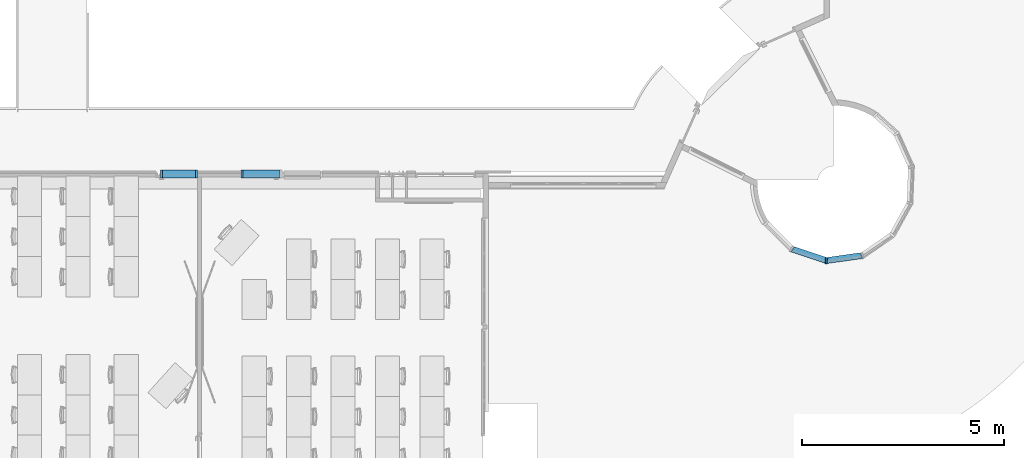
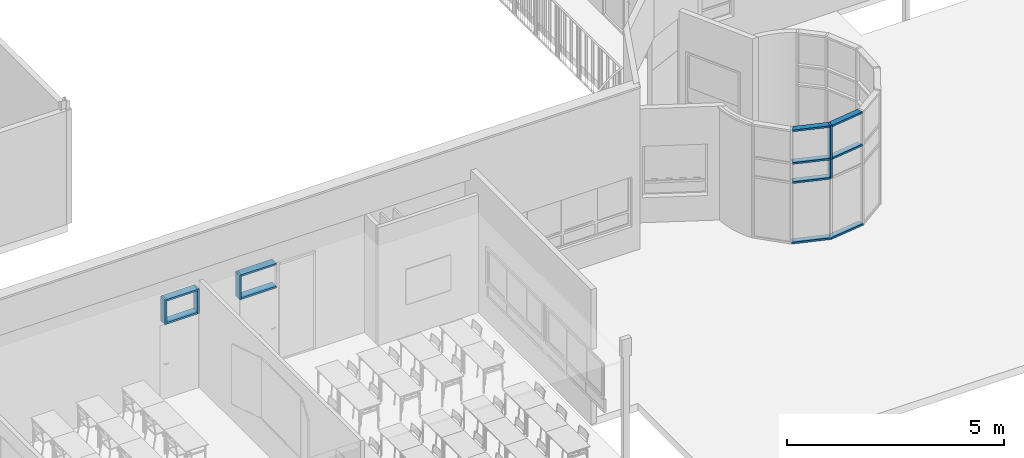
# One storey, part 12 of 44: 23 members, 5 elements without a shape of their own.
"""IFC2X3 building model written with IfcOpenShell, lengths in centimetres."""

from ifc_helpers import new_model, entity, si_unit, converted_unit, derived_unit, direction, frame, frame_2d, origin, origin_2d_with_axis, place, context, subcontext, project, spatial, polyline, rectangle, extrude, clip, halfspace, bounded_halfspace, material, type_object, element, aggregate, save


model = new_model("IFC2X3")

# Units and contexts
model_context = context("Model", 3, precision=0.001, world=origin(), true_north=direction((6.12303176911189e-17, 1.0)))
body_context = subcontext(model_context, "Body", "Model", "MODEL_VIEW")
ifc_project = project(units=[si_unit("LENGTHUNIT", "METRE", prefix="CENTI"), si_unit("AREAUNIT", "SQUARE_METRE"), si_unit("VOLUMEUNIT", "CUBIC_METRE"), converted_unit("PLANEANGLEUNIT", "DEGREE", entity("IfcRatioMeasure", 0.0174532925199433), si_unit("PLANEANGLEUNIT", "RADIAN"), dimensions=[0, 0, 0, 0, 0, 0, 0]), si_unit("MASSUNIT", "GRAM", prefix="KILO"), si_unit("TIMEUNIT", "SECOND"), si_unit("FREQUENCYUNIT", "HERTZ"), si_unit("THERMODYNAMICTEMPERATUREUNIT", "DEGREE_CELSIUS"), derived_unit("THERMALTRANSMITTANCEUNIT", [(si_unit("MASSUNIT", "GRAM", prefix="KILO"), 1), (si_unit("THERMODYNAMICTEMPERATUREUNIT", "KELVIN"), -1), (si_unit("TIMEUNIT", "SECOND"), -3)]), derived_unit("VOLUMETRICFLOWRATEUNIT", [(si_unit("LENGTHUNIT", "METRE"), 3), (si_unit("TIMEUNIT", "SECOND"), -1)]), si_unit("ELECTRICCURRENTUNIT", "AMPERE"), si_unit("ELECTRICVOLTAGEUNIT", "VOLT"), si_unit("POWERUNIT", "WATT"), si_unit("FORCEUNIT", "NEWTON", prefix="KILO"), si_unit("ILLUMINANCEUNIT", "LUX"), si_unit("LUMINOUSFLUXUNIT", "LUMEN"), si_unit("LUMINOUSINTENSITYUNIT", "CANDELA"), derived_unit("USERDEFINED", [(si_unit("MASSUNIT", "GRAM", prefix="KILO"), -1), (si_unit("LENGTHUNIT", "METRE"), -2), (si_unit("TIMEUNIT", "SECOND"), 3), (si_unit("LUMINOUSFLUXUNIT", "LUMEN"), 1)]), derived_unit("LINEARVELOCITYUNIT", [(si_unit("LENGTHUNIT", "METRE"), 1), (si_unit("TIMEUNIT", "SECOND"), -1)]), si_unit("PRESSUREUNIT", "PASCAL"), derived_unit("USERDEFINED", [(si_unit("LENGTHUNIT", "METRE"), -2), (si_unit("MASSUNIT", "GRAM", prefix="KILO"), 1), (si_unit("TIMEUNIT", "SECOND"), -2)])], contexts=[model_context])

# Site, building, storey
site_placement = place(None, frame((8.62739174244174, -249.285249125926, 0.0)))
site = spatial("IfcSite", under=ifc_project, at=site_placement, Name="Default", CompositionType="ELEMENT")
building_placement = place(site_placement, origin())
building = spatial("IfcBuilding", under=site, at=building_placement, CompositionType="ELEMENT")
storey_placement = place(building_placement, frame((0.0, 0.0, 343.0)))
storey = spatial("IfcBuildingStorey", under=building, at=storey_placement, Name="R+1", CompositionType="ELEMENT", Elevation=343.0)

# Curtain wall, members
curtain_wall_type_1 = type_object("IfcCurtainWallType", Name="Mur-rideau:1 m x 1 m - Meneaux", PredefinedType="NOTDEFINED")
curtain_wall_1_placement = place(storey_placement, frame((0.0, 0.0, -343.0)))
curtain_wall_1 = element("IfcCurtainWall", 1, at=curtain_wall_1_placement, inside=storey, type_object=curtain_wall_type_1, Name="Mur-rideau:1 m x 1 m - Meneaux", ObjectType="Mur-rideau:1 m x 1 m - Meneaux")
ifc_material = material(Name="Plastique, blanc opaque")
member_1_placement = place(curtain_wall_1_placement, frame((0.0, 0.0, 343.0)))
member_1 = element("IfcMember", 2, at=member_1_placement, material=ifc_material, Name="Mur-rideau:1 m x 1 m - Meneaux:661", ObjectType="Mur-rideau:1 m x 1 m - Meneaux:661", context=body_context, shape_type="Clipping", body=[
    clip(clip(clip(clip(extrude(rectangle(XDim=4.99999999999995, YDim=15.0, at=frame_2d((0.0, 2.22932783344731e-13), x_axis=(1.0, 0.0))), frame((3024.97569416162, 558.695944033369, 317.5), z_axis=(-0.948048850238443, 0.318124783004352, 0.0), x_axis=(0.0, 0.0, -1.0)), (0.0, 0.0, 1.0), 88.4011679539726), bounded_halfspace(frame((3022.55445511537, 551.203317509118, 226.0), z_axis=(0.995762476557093, -0.0919624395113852, 0.0), x_axis=(0.0919624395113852, 0.995762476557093, 0.0)), False, frame((3024.97569416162, 558.695944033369, 317.5), z_axis=(-0.948048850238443, 0.318124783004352, 0.0), x_axis=(0.0, 0.0, -1.0)), polyline([(-2.49999999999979, 7.50000000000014), (2.50000000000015, 7.50000000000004), (2.49999999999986, -6.72567292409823), (-2.50000000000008, -6.72567292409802), (-2.49999999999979, 7.50000000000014)]))), bounded_halfspace(frame((3023.93389170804, 566.139754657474, 226.0), z_axis=(-0.0919624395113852, -0.995762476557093, 0.0), x_axis=(0.995762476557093, -0.0919624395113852, 0.0)), False, frame((3024.97569416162, 558.695944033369, 317.5), z_axis=(-0.948048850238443, 0.318124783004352, 0.0), x_axis=(0.0, 0.0, -1.0)), polyline([(2.49999999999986, -6.72567292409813), (2.49999999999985, -7.49999999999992), (-2.5000000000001, -7.49999999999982), (-2.50000000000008, -6.72567292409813), (2.49999999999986, -6.72567292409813)]))), bounded_halfspace(frame((2946.48807745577, 592.127268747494, 226.0), z_axis=(-0.849684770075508, 0.527290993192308, 0.0), x_axis=(0.527290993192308, 0.849684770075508, 0.0)), False, frame((3024.97569416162, 558.695944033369, 317.5), z_axis=(-0.948048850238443, 0.318124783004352, 0.0), x_axis=(0.0, 0.0, -1.0)), polyline([(-2.50000000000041, 7.50000000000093), (-2.50000000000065, -6.72567292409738), (2.49999999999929, -6.72567292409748), (2.49999999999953, 7.50000000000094), (-2.50000000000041, 7.50000000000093)]))), bounded_halfspace(frame((2942.23965360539, 594.763723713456, 226.0), z_axis=(-0.527290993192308, -0.849684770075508, 0.0), x_axis=(0.849684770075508, -0.527290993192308, 0.0)), False, frame((3024.97569416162, 558.695944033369, 317.5), z_axis=(-0.948048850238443, 0.318124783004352, 0.0), x_axis=(0.0, 0.0, -1.0)), polyline([(-2.50000000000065, -6.72567292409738), (-2.50000000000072, -7.49999999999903), (2.49999999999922, -7.49999999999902), (2.49999999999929, -6.72567292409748), (-2.50000000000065, -6.72567292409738)]))),
])
member_2_placement = place(curtain_wall_1_placement, frame((0.0, 0.0, 343.0)))
member_2 = element("IfcMember", 3, at=member_2_placement, material=ifc_material, Name="Mur-rideau:1 m x 1 m - Meneaux:661", ObjectType="Mur-rideau:1 m x 1 m - Meneaux:661", context=body_context, shape_type="Clipping", body=[
    clip(clip(clip(clip(extrude(rectangle(XDim=4.99999999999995, YDim=15.0000000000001, at=origin_2d_with_axis()), frame((3114.06682179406, 570.850598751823, 317.5), z_axis=(-0.990276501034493, -0.13911308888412, 0.0), x_axis=(0.0, 0.0, -1.0)), (0.0, 0.0, 1.0), 88.4011679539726), bounded_halfspace(frame((3115.24942736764, 563.065786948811, 226.0), z_axis=(0.931884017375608, 0.362756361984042, 0.0), x_axis=(0.362756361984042, -0.931884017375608, 0.0)), False, frame((3114.06682179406, 570.850598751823, 317.5), z_axis=(-0.990276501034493, -0.13911308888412, 0.0), x_axis=(0.0, 0.0, -1.0)), polyline([(-2.49999999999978, 7.50000000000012), (2.50000000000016, 7.50000000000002), (2.49999999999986, -6.72567292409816), (-2.50000000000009, -6.72567292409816), (-2.49999999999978, 7.50000000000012)]))), bounded_halfspace(frame((3109.80808193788, 577.044047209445, 226.0), z_axis=(0.362756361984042, -0.931884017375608, 0.0), x_axis=(0.931884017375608, 0.362756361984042, 0.0)), False, frame((3114.06682179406, 570.850598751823, 317.5), z_axis=(-0.990276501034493, -0.13911308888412, 0.0), x_axis=(0.0, 0.0, -1.0)), polyline([(2.49999999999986, -6.72567292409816), (2.49999999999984, -7.50000000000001), (-2.5000000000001, -7.4999999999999), (-2.50000000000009, -6.72567292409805), (2.49999999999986, -6.72567292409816)]))), bounded_halfspace(frame((3028.91270409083, 565.679942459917, 226.0), z_axis=(-0.995762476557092, 0.091962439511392, 0.0), x_axis=(0.091962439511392, 0.995762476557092, 0.0)), False, frame((3114.06682179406, 570.850598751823, 317.5), z_axis=(-0.990276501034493, -0.13911308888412, 0.0), x_axis=(0.0, 0.0, -1.0)), polyline([(-2.4999999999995, 7.49999999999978), (-2.4999999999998, -6.7256729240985), (2.50000000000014, -6.72567292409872), (2.50000000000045, 7.49999999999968), (-2.4999999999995, 7.49999999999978)]))), bounded_halfspace(frame((3023.93389170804, 566.139754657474, 226.0), z_axis=(-0.091962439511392, -0.995762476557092, 0.0), x_axis=(0.995762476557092, -0.091962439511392, 0.0)), False, frame((3114.06682179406, 570.850598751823, 317.5), z_axis=(-0.990276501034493, -0.13911308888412, 0.0), x_axis=(0.0, 0.0, -1.0)), polyline([(-2.4999999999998, -6.72567292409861), (-2.49999999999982, -7.50000000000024), (2.50000000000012, -7.50000000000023), (2.50000000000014, -6.72567292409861), (-2.4999999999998, -6.72567292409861)]))),
])
member_3_placement = place(curtain_wall_1_placement, frame((0.0, 0.0, 343.0)))
member_3 = element("IfcMember", 4, at=member_3_placement, material=ifc_material, Name="Mur-rideau:1 m x 1 m - Meneaux:661", ObjectType="Mur-rideau:1 m x 1 m - Meneaux:661", context=body_context, shape_type="Clipping", body=[
    clip(clip(extrude(rectangle(XDim=5.0, YDim=15.0000000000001, at=frame_2d((-2.70894418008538e-14, -8.34887714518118e-14), x_axis=(1.0, 0.0))), frame((3023.98158301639, 558.1955111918, 2.49999999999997), z_axis=(0.990276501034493, 0.139113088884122, 0.0), x_axis=(0.0, 0.0, -1.0)), (0.0, 0.0, 1.0), 93.5383987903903), halfspace(frame((3025.7335796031, 558.441629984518, -30.48), z_axis=(-0.995762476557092, 0.0919624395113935, 0.0), x_axis=(0.0919624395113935, 0.995762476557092, 0.0)), False)), halfspace(frame((3114.8584646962, 570.961807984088, -30.48), z_axis=(0.93188401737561, 0.362756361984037, 0.0), x_axis=(0.362756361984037, -0.93188401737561, 0.0)), False)),
])
member_4_placement = place(curtain_wall_1_placement, frame((0.0, 0.0, 343.0)))
member_4 = element("IfcMember", 5, at=member_4_placement, material=ifc_material, Name="Mur-rideau:1 m x 1 m - Meneaux:661", ObjectType="Mur-rideau:1 m x 1 m - Meneaux:661", context=body_context, shape_type="Clipping", body=[
    clip(clip(extrude(rectangle(XDim=5.0, YDim=15.0000000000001, at=frame_2d((-2.70894418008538e-14, 2.74003042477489e-13), x_axis=(1.0, 0.0))), frame((2938.70726531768, 587.643951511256, 2.49999999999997), z_axis=(0.948048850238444, -0.31812478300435, 0.0), x_axis=(0.0, 0.0, -1.0)), (0.0, 0.0, 1.0), 93.5643787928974), halfspace(frame((2940.40918308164, 587.072860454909, -30.48), z_axis=(-0.847951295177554, 0.53007414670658, 0.0), x_axis=(0.53007414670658, 0.847951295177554, 0.0)), False)), halfspace(frame((3025.7335796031, 558.441629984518, -30.48), z_axis=(0.995762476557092, -0.0919624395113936, 0.0), x_axis=(0.0919624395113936, 0.995762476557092, 0.0)), False)),
])
member_5_placement = place(curtain_wall_1_placement, frame((0.0, 0.0, 343.0)))
member_5 = element("IfcMember", 6, at=member_5_placement, material=ifc_material, Name="Mur-rideau:1 m x 1 m - Meneaux:661", ObjectType="Mur-rideau:1 m x 1 m - Meneaux:661", context=body_context, shape_type="Clipping", body=[
    clip(clip(clip(clip(clip(clip(clip(clip(extrude(rectangle(XDim=4.99999999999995, YDim=15.0000000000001, at=frame_2d((0.0, -1.71862524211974e-13), x_axis=(1.0, 0.0))), frame((3024.97569416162, 558.695944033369, 226.0), z_axis=(-0.948048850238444, 0.31812478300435, 0.0), x_axis=(0.0, 0.0, -1.0)), (0.0, 0.0, 1.0), 88.4011679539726), bounded_halfspace(frame((3022.55445511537, 551.203317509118, 226.0), z_axis=(0.995762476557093, -0.0919624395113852, 0.0), x_axis=(0.0919624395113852, 0.995762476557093, 0.0)), False, frame((3024.97569416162, 558.695944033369, 226.0), z_axis=(-0.948048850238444, 0.31812478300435, 0.0), x_axis=(0.0, 0.0, -1.0)), polyline([(-2.49999999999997, 7.49999999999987), (0.0, 7.49999999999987), (0.0, -6.72567292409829), (-2.49999999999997, -6.72567292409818), (-2.49999999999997, 7.49999999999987)]))), bounded_halfspace(frame((3022.55445511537, 551.203317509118, 172.0), z_axis=(0.995762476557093, -0.0919624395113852, 0.0), x_axis=(0.0919624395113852, 0.995762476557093, 0.0)), False, frame((3024.97569416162, 558.695944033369, 226.0), z_axis=(-0.948048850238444, 0.31812478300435, 0.0), x_axis=(0.0, 0.0, -1.0)), polyline([(0.0, 7.49999999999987), (2.49999999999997, 7.49999999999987), (2.49999999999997, -6.72567292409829), (0.0, -6.7256729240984), (0.0, 7.49999999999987)]))), bounded_halfspace(frame((3023.93389170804, 566.139754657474, 226.0), z_axis=(-0.0919624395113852, -0.995762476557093, 0.0), x_axis=(0.995762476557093, -0.0919624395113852, 0.0)), False, frame((3024.97569416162, 558.695944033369, 226.0), z_axis=(-0.948048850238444, 0.31812478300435, 0.0), x_axis=(0.0, 0.0, -1.0)), polyline([(0.0, -7.50000000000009), (-2.49999999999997, -7.50000000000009), (-2.49999999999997, -6.72567292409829), (0.0, -6.72567292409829), (0.0, -7.50000000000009)]))), bounded_halfspace(frame((3023.93389170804, 566.139754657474, 172.0), z_axis=(-0.0919624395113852, -0.995762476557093, 0.0), x_axis=(0.995762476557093, -0.0919624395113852, 0.0)), False, frame((3024.97569416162, 558.695944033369, 226.0), z_axis=(-0.948048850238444, 0.31812478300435, 0.0), x_axis=(0.0, 0.0, -1.0)), polyline([(2.49999999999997, -6.72567292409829), (2.49999999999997, -7.50000000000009), (0.0, -7.5000000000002), (0.0, -6.72567292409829), (2.49999999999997, -6.72567292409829)]))), bounded_halfspace(frame((2946.48807745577, 592.127268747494, 226.0), z_axis=(-0.849684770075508, 0.527290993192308, 0.0), x_axis=(0.527290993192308, 0.849684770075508, 0.0)), False, frame((3024.97569416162, 558.695944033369, 226.0), z_axis=(-0.948048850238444, 0.31812478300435, 0.0), x_axis=(0.0, 0.0, -1.0)), polyline([(-2.49999999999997, 7.50000000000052), (-2.49999999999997, -6.72567292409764), (0.0, -6.72567292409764), (0.0, 7.50000000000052), (-2.49999999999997, 7.50000000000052)]))), bounded_halfspace(frame((2942.23965360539, 594.763723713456, 226.0), z_axis=(-0.527290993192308, -0.849684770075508, 0.0), x_axis=(0.849684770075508, -0.527290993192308, 0.0)), False, frame((3024.97569416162, 558.695944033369, 226.0), z_axis=(-0.948048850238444, 0.31812478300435, 0.0), x_axis=(0.0, 0.0, -1.0)), polyline([(-2.49999999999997, -6.72567292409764), (-2.49999999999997, -7.49999999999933), (0.0, -7.49999999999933), (0.0, -6.72567292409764), (-2.49999999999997, -6.72567292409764)]))), bounded_halfspace(frame((2946.48807745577, 592.127268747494, 172.0), z_axis=(-0.849684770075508, 0.527290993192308, 0.0), x_axis=(0.527290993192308, 0.849684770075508, 0.0)), False, frame((3024.97569416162, 558.695944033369, 226.0), z_axis=(-0.948048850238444, 0.31812478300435, 0.0), x_axis=(0.0, 0.0, -1.0)), polyline([(2.49999999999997, -6.72567292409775), (2.49999999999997, 7.50000000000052), (0.0, 7.50000000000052), (0.0, -6.72567292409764), (2.49999999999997, -6.72567292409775)]))), bounded_halfspace(frame((2942.23965360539, 594.763723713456, 172.0), z_axis=(-0.527290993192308, -0.849684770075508, 0.0), x_axis=(0.849684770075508, -0.527290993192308, 0.0)), False, frame((3024.97569416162, 558.695944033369, 226.0), z_axis=(-0.948048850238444, 0.31812478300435, 0.0), x_axis=(0.0, 0.0, -1.0)), polyline([(0.0, -7.49999999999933), (2.49999999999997, -7.49999999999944), (2.49999999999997, -6.72567292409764), (0.0, -6.72567292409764), (0.0, -7.49999999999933)]))),
])
member_6_placement = place(curtain_wall_1_placement, frame((0.0, 0.0, 343.0)))
member_6 = element("IfcMember", 7, at=member_6_placement, material=ifc_material, Name="Mur-rideau:1 m x 1 m - Meneaux:661", ObjectType="Mur-rideau:1 m x 1 m - Meneaux:661", context=body_context, shape_type="Clipping", body=[
    clip(clip(clip(clip(clip(clip(clip(clip(extrude(rectangle(XDim=4.99999999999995, YDim=15.0000000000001, at=frame_2d((0.0, 2.97539770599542e-14), x_axis=(1.0, 0.0))), frame((3114.06682179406, 570.850598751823, 226.0), z_axis=(-0.990276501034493, -0.139113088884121, 0.0), x_axis=(0.0, 0.0, -1.0)), (0.0, 0.0, 1.0), 88.401167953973), bounded_halfspace(frame((3115.24942736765, 563.065786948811, 226.0), z_axis=(0.931884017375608, 0.362756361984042, 0.0), x_axis=(0.362756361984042, -0.931884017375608, 0.0)), False, frame((3114.06682179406, 570.850598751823, 226.0), z_axis=(-0.990276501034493, -0.139113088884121, 0.0), x_axis=(0.0, 0.0, -1.0)), polyline([(-2.49999999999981, 7.50000000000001), (0.0, 7.50000000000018), (0.0, -6.72567292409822), (-2.50000000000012, -6.72567292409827), (-2.49999999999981, 7.50000000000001)]))), bounded_halfspace(frame((3115.24942736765, 563.065786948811, 172.0), z_axis=(0.931884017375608, 0.362756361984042, 0.0), x_axis=(0.362756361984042, -0.931884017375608, 0.0)), False, frame((3114.06682179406, 570.850598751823, 226.0), z_axis=(-0.990276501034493, -0.139113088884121, 0.0), x_axis=(0.0, 0.0, -1.0)), polyline([(0.0, 7.49999999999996), (2.50000000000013, 7.4999999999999), (2.49999999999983, -6.72567292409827), (0.0, -6.7256729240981), (0.0, 7.49999999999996)]))), bounded_halfspace(frame((3109.80808193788, 577.044047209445, 226.0), z_axis=(0.362756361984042, -0.931884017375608, 0.0), x_axis=(0.931884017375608, 0.362756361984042, 0.0)), False, frame((3114.06682179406, 570.850598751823, 226.0), z_axis=(-0.990276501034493, -0.139113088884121, 0.0), x_axis=(0.0, 0.0, -1.0)), polyline([(0.0, -7.50000000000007), (-2.50000000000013, -7.50000000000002), (-2.50000000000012, -6.72567292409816), (0.0, -6.72567292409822), (0.0, -7.50000000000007)]))), bounded_halfspace(frame((3109.80808193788, 577.044047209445, 172.0), z_axis=(0.362756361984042, -0.931884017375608, 0.0), x_axis=(0.931884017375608, 0.362756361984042, 0.0)), False, frame((3114.06682179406, 570.850598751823, 226.0), z_axis=(-0.990276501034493, -0.139113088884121, 0.0), x_axis=(0.0, 0.0, -1.0)), polyline([(2.49999999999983, -6.72567292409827), (2.49999999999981, -7.50000000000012), (0.0, -7.49999999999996), (0.0, -6.72567292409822), (2.49999999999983, -6.72567292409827)]))), bounded_halfspace(frame((3028.91270409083, 565.679942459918, 226.0), z_axis=(-0.995762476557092, 0.0919624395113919, 0.0), x_axis=(0.0919624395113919, 0.995762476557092, 0.0)), False, frame((3114.06682179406, 570.850598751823, 226.0), z_axis=(-0.990276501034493, -0.139113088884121, 0.0), x_axis=(0.0, 0.0, -1.0)), polyline([(-2.49999999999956, 7.49999999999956), (-2.49999999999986, -6.72567292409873), (0.0, -6.72567292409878), (0.0, 7.49999999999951), (-2.49999999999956, 7.49999999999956)]))), bounded_halfspace(frame((3023.93389170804, 566.139754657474, 226.0), z_axis=(-0.0919624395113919, -0.995762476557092, 0.0), x_axis=(0.995762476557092, -0.0919624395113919, 0.0)), False, frame((3114.06682179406, 570.850598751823, 226.0), z_axis=(-0.990276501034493, -0.139113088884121, 0.0), x_axis=(0.0, 0.0, -1.0)), polyline([(-2.49999999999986, -6.72567292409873), (-2.49999999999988, -7.50000000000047), (0.0, -7.50000000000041), (0.0, -6.72567292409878), (-2.49999999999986, -6.72567292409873)]))), bounded_halfspace(frame((3028.91270409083, 565.679942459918, 172.0), z_axis=(-0.995762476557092, 0.0919624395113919, 0.0), x_axis=(0.0919624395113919, 0.995762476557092, 0.0)), False, frame((3114.06682179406, 570.850598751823, 226.0), z_axis=(-0.990276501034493, -0.139113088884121, 0.0), x_axis=(0.0, 0.0, -1.0)), polyline([(2.50000000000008, -6.72567292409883), (2.50000000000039, 7.49999999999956), (0.0, 7.49999999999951), (0.0, -6.72567292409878), (2.50000000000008, -6.72567292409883)]))), bounded_halfspace(frame((3023.93389170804, 566.139754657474, 172.0), z_axis=(-0.0919624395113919, -0.995762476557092, 0.0), x_axis=(0.995762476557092, -0.0919624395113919, 0.0)), False, frame((3114.06682179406, 570.850598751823, 226.0), z_axis=(-0.990276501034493, -0.139113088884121, 0.0), x_axis=(0.0, 0.0, -1.0)), polyline([(0.0, -7.50000000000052), (2.50000000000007, -7.50000000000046), (2.50000000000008, -6.72567292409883), (0.0, -6.72567292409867), (0.0, -7.50000000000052)]))),
])
member_7_placement = place(curtain_wall_1_placement, frame((0.0, 0.0, 343.0)))
member_7 = element("IfcMember", 8, at=member_7_placement, material=ifc_material, Name="Mur-rideau:1 m x 1 m - Meneaux:661", ObjectType="Mur-rideau:1 m x 1 m - Meneaux:661", context=body_context, shape_type="SweptSolid", body=[
    extrude(rectangle(XDim=4.99999999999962, YDim=15.0, at=origin_2d_with_axis()), frame((3025.7335796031, 558.441629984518, 226.0), z_axis=(0.0, 0.0, 1.0), x_axis=(0.995762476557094, -0.0919624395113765, 0.0)), (0.0, 0.0, 1.0), 94.0),
])
member_8_placement = place(curtain_wall_1_placement, frame((0.0, 0.0, 343.0)))
member_8 = element("IfcMember", 9, at=member_8_placement, material=ifc_material, Name="Mur-rideau:1 m x 1 m - Meneaux:661", ObjectType="Mur-rideau:1 m x 1 m - Meneaux:661", context=body_context, shape_type="Clipping", body=[
    clip(clip(clip(clip(clip(clip(clip(clip(extrude(rectangle(XDim=4.99999999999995, YDim=15.0000000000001, at=frame_2d((0.0, -1.71862524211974e-13), x_axis=(1.0, 0.0))), frame((3024.97569416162, 558.695944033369, 172.0), z_axis=(-0.948048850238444, 0.31812478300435, 0.0), x_axis=(0.0, 0.0, -1.0)), (0.0, 0.0, 1.0), 88.4011679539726), bounded_halfspace(frame((3022.55445511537, 551.203317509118, 172.0), z_axis=(0.995762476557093, -0.0919624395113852, 0.0), x_axis=(0.0919624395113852, 0.995762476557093, 0.0)), False, frame((3024.97569416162, 558.695944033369, 172.0), z_axis=(-0.948048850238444, 0.31812478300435, 0.0), x_axis=(0.0, 0.0, -1.0)), polyline([(-2.49999999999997, 7.49999999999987), (0.0, 7.49999999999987), (0.0, -6.72567292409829), (-2.49999999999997, -6.72567292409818), (-2.49999999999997, 7.49999999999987)]))), bounded_halfspace(frame((3022.55445511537, 551.203317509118, 5.0), z_axis=(0.995762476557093, -0.0919624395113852, 0.0), x_axis=(0.0919624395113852, 0.995762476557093, 0.0)), False, frame((3024.97569416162, 558.695944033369, 172.0), z_axis=(-0.948048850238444, 0.31812478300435, 0.0), x_axis=(0.0, 0.0, -1.0)), polyline([(0.0, 7.49999999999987), (2.49999999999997, 7.49999999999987), (2.49999999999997, -6.72567292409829), (0.0, -6.7256729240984), (0.0, 7.49999999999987)]))), bounded_halfspace(frame((3023.93389170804, 566.139754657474, 172.0), z_axis=(-0.0919624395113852, -0.995762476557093, 0.0), x_axis=(0.995762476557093, -0.0919624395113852, 0.0)), False, frame((3024.97569416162, 558.695944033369, 172.0), z_axis=(-0.948048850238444, 0.31812478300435, 0.0), x_axis=(0.0, 0.0, -1.0)), polyline([(0.0, -7.50000000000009), (-2.49999999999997, -7.50000000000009), (-2.49999999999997, -6.72567292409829), (0.0, -6.72567292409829), (0.0, -7.50000000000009)]))), bounded_halfspace(frame((3023.93389170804, 566.139754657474, 5.0), z_axis=(-0.0919624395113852, -0.995762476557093, 0.0), x_axis=(0.995762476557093, -0.0919624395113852, 0.0)), False, frame((3024.97569416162, 558.695944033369, 172.0), z_axis=(-0.948048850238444, 0.31812478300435, 0.0), x_axis=(0.0, 0.0, -1.0)), polyline([(2.49999999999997, -6.72567292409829), (2.49999999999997, -7.50000000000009), (0.0, -7.5000000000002), (0.0, -6.72567292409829), (2.49999999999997, -6.72567292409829)]))), bounded_halfspace(frame((2946.48807745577, 592.127268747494, 172.0), z_axis=(-0.849684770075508, 0.527290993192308, 0.0), x_axis=(0.527290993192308, 0.849684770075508, 0.0)), False, frame((3024.97569416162, 558.695944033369, 172.0), z_axis=(-0.948048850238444, 0.31812478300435, 0.0), x_axis=(0.0, 0.0, -1.0)), polyline([(-2.49999999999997, 7.50000000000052), (-2.49999999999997, -6.72567292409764), (0.0, -6.72567292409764), (0.0, 7.50000000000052), (-2.49999999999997, 7.50000000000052)]))), bounded_halfspace(frame((2942.23965360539, 594.763723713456, 172.0), z_axis=(-0.527290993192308, -0.849684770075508, 0.0), x_axis=(0.849684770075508, -0.527290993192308, 0.0)), False, frame((3024.97569416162, 558.695944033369, 172.0), z_axis=(-0.948048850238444, 0.31812478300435, 0.0), x_axis=(0.0, 0.0, -1.0)), polyline([(-2.49999999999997, -6.72567292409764), (-2.50000000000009, -7.49999999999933), (0.0, -7.49999999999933), (0.0, -6.72567292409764), (-2.49999999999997, -6.72567292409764)]))), bounded_halfspace(frame((2946.48807745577, 592.127268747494, 5.0), z_axis=(-0.849684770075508, 0.527290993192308, 0.0), x_axis=(0.527290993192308, 0.849684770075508, 0.0)), False, frame((3024.97569416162, 558.695944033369, 172.0), z_axis=(-0.948048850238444, 0.31812478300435, 0.0), x_axis=(0.0, 0.0, -1.0)), polyline([(2.49999999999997, -6.72567292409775), (2.50000000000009, 7.50000000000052), (0.0, 7.50000000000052), (0.0, -6.72567292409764), (2.49999999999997, -6.72567292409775)]))), bounded_halfspace(frame((2942.23965360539, 594.763723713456, 5.0), z_axis=(-0.527290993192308, -0.849684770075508, 0.0), x_axis=(0.849684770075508, -0.527290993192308, 0.0)), False, frame((3024.97569416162, 558.695944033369, 172.0), z_axis=(-0.948048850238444, 0.31812478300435, 0.0), x_axis=(0.0, 0.0, -1.0)), polyline([(0.0, -7.49999999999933), (2.49999999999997, -7.49999999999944), (2.49999999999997, -6.72567292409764), (0.0, -6.72567292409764), (0.0, -7.49999999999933)]))),
])
member_9_placement = place(curtain_wall_1_placement, frame((0.0, 0.0, 343.0)))
member_9 = element("IfcMember", 10, at=member_9_placement, material=ifc_material, Name="Mur-rideau:1 m x 1 m - Meneaux:661", ObjectType="Mur-rideau:1 m x 1 m - Meneaux:661", context=body_context, shape_type="SweptSolid", body=[
    extrude(rectangle(XDim=4.99999999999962, YDim=15.0, at=origin_2d_with_axis()), frame((3025.7335796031, 558.441629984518, 172.0), z_axis=(0.0, 0.0, 1.0), x_axis=(0.995762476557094, -0.0919624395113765, 0.0)), (0.0, 0.0, 1.0), 54.0),
])
aggregate(curtain_wall_1, [member_1, member_2, member_3, member_4, member_5, member_6, member_7, member_8, member_9])

curtain_wall_type_2 = type_object("IfcCurtainWallType", Name="Mur-rideau:Simple panneau", PredefinedType="NOTDEFINED")
curtain_wall_2_placement = place(storey_placement, frame((0.0, 0.0, -343.0)))
curtain_wall_2 = element("IfcCurtainWall", 11, at=curtain_wall_2_placement, inside=storey, type_object=curtain_wall_type_2, Name="Mur-rideau:Simple panneau", ObjectType="Mur-rideau:Simple panneau")
member_10_placement = place(curtain_wall_2_placement, frame((0.0, 0.0, 343.0)))
member_10 = element("IfcMember", 12, at=member_10_placement, material=ifc_material, Name="Mur-rideau:Simple panneau", ObjectType="Mur-rideau:Simple panneau", context=body_context, shape_type="SweptSolid", body=[
    extrude(rectangle(XDim=4.99999999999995, YDim=20.0, at=frame_2d((1.08357767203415e-13, 0.0), x_axis=(1.0, 0.0))), frame((1466.40547197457, 772.998568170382, 278.0), z_axis=(0.0, 0.0, -1.0), x_axis=(-1.0, 0.0, 0.0)), (0.0, 0.0, 1.0), 69.4999999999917),
])
member_11_placement = place(curtain_wall_2_placement, frame((0.0, 0.0, 343.0)))
member_11 = element("IfcMember", 13, at=member_11_placement, material=ifc_material, Name="Mur-rideau:Simple panneau", ObjectType="Mur-rideau:Simple panneau", context=body_context, shape_type="SweptSolid", body=[
    extrude(rectangle(XDim=4.99999999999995, YDim=20.0, at=frame_2d((0.0, 8.65973959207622e-13), x_axis=(1.0, 0.0))), frame((1381.95482781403, 772.998568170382, 275.499999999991), z_axis=(1.0, 0.0, 0.0), x_axis=(0.0, 0.0, -1.0)), (0.0, 0.0, 1.0), 81.9506441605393),
])
member_12_placement = place(curtain_wall_2_placement, frame((0.0, 0.0, 343.0)))
member_12 = element("IfcMember", 14, at=member_12_placement, material=ifc_material, Name="Mur-rideau:Simple panneau", ObjectType="Mur-rideau:Simple panneau", context=body_context, shape_type="SweptSolid", body=[
    extrude(rectangle(XDim=4.99999999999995, YDim=20.0, at=frame_2d((1.08357767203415e-13, 1.08357767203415e-13), x_axis=(1.0, 0.0))), frame((1379.45482781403, 772.998568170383, 208.499999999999), z_axis=(0.0, 0.0, 1.0), x_axis=(-1.0, 0.0, 0.0)), (0.0, 0.0, 1.0), 69.4999999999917),
])
member_13_placement = place(curtain_wall_2_placement, frame((0.0, 0.0, 343.0)))
member_13 = element("IfcMember", 15, at=member_13_placement, material=ifc_material, Name="Mur-rideau:Simple panneau", ObjectType="Mur-rideau:Simple panneau", context=body_context, shape_type="SweptSolid", body=[
    extrude(rectangle(XDim=5.00000000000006, YDim=20.0, at=frame_2d((-5.41788836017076e-14, 8.65973959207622e-13), x_axis=(1.0, 0.0))), frame((1463.90547197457, 772.998568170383, 211.0), z_axis=(-1.0, 0.0, 0.0), x_axis=(0.0, 0.0, -1.0)), (0.0, 0.0, 1.0), 81.9506441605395),
])
aggregate(curtain_wall_2, [member_10, member_11, member_12, member_13])

curtain_wall_3_placement = place(storey_placement, frame((0.0, 0.0, -343.0)))
curtain_wall_3 = element("IfcCurtainWall", 16, at=curtain_wall_3_placement, inside=storey, type_object=curtain_wall_type_2, Name="Mur-rideau:Simple panneau", ObjectType="Mur-rideau:Simple panneau")
member_14_placement = place(curtain_wall_3_placement, frame((0.0, 0.0, 343.0)))
member_14 = element("IfcMember", 17, at=member_14_placement, material=ifc_material, Name="Mur-rideau:Simple panneau", ObjectType="Mur-rideau:Simple panneau", context=body_context, shape_type="SweptSolid", body=[
    extrude(rectangle(XDim=4.99999999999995, YDim=20.0, at=frame_2d((-1.08357767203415e-13, 1.08357767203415e-13), x_axis=(1.0, 0.0))), frame((1578.40482780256, 772.99856817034, 278.0), z_axis=(0.0, 0.0, -1.0), x_axis=(-1.0, 0.0, 0.0)), (0.0, 0.0, 1.0), 69.4999999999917),
])
member_15_placement = place(curtain_wall_3_placement, frame((0.0, 0.0, 343.0)))
member_15 = element("IfcMember", 18, at=member_15_placement, material=ifc_material, Name="Mur-rideau:Simple panneau", ObjectType="Mur-rideau:Simple panneau", context=body_context, shape_type="SweptSolid", body=[
    extrude(rectangle(XDim=4.99999999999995, YDim=20.0, at=frame_2d((0.0, 2.16715534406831e-13), x_axis=(1.0, 0.0))), frame((1672.90482780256, 772.99856817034, 275.499999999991), z_axis=(-1.0, 0.0, 0.0), x_axis=(0.0, 0.0, -1.0)), (0.0, 0.0, 1.0), 91.9999999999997),
])
member_16_placement = place(curtain_wall_3_placement, frame((0.0, 0.0, 343.0)))
member_16 = element("IfcMember", 19, at=member_16_placement, material=ifc_material, Name="Mur-rideau:Simple panneau", ObjectType="Mur-rideau:Simple panneau", context=body_context, shape_type="SweptSolid", body=[
    extrude(rectangle(XDim=5.00000000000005, YDim=20.0, at=frame_2d((-5.39568389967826e-14, 2.16715534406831e-13), x_axis=(1.0, 0.0))), frame((1580.90482780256, 772.99856817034, 211.0), z_axis=(1.0, 0.0, 0.0), x_axis=(0.0, 0.0, -1.0)), (0.0, 0.0, 1.0), 91.9999999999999),
])
aggregate(curtain_wall_3, [member_14, member_15, member_16])

curtain_wall_4_placement = place(storey_placement, frame((0.0, 0.0, -343.0)))
curtain_wall_4 = element("IfcCurtainWall", 20, at=curtain_wall_4_placement, inside=storey, type_object=curtain_wall_type_2, Name="Mur-rideau:Simple panneau", ObjectType="Mur-rideau:Simple panneau")
member_17_placement = place(curtain_wall_4_placement, frame((0.0, 0.0, 343.0)))
member_17 = element("IfcMember", 21, at=member_17_placement, material=ifc_material, Name="Mur-rideau:Simple panneau", ObjectType="Mur-rideau:Simple panneau", context=body_context, shape_type="SweptSolid", body=[
    extrude(rectangle(XDim=4.99999999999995, YDim=20.0, at=frame_2d((1.08357767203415e-13, 0.0), x_axis=(1.0, 0.0))), frame((1466.40547197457, 772.998568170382, 278.0), z_axis=(0.0, 0.0, -1.0), x_axis=(-1.0, 0.0, 0.0)), (0.0, 0.0, 1.0), 69.4999999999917),
])
member_18_placement = place(curtain_wall_4_placement, frame((0.0, 0.0, 343.0)))
member_18 = element("IfcMember", 22, at=member_18_placement, material=ifc_material, Name="Mur-rideau:Simple panneau", ObjectType="Mur-rideau:Simple panneau", context=body_context, shape_type="SweptSolid", body=[
    extrude(rectangle(XDim=4.99999999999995, YDim=20.0, at=frame_2d((0.0, 8.65973959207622e-13), x_axis=(1.0, 0.0))), frame((1381.95482781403, 772.998568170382, 275.499999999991), z_axis=(1.0, 0.0, 0.0), x_axis=(0.0, 0.0, -1.0)), (0.0, 0.0, 1.0), 81.9506441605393),
])
member_19_placement = place(curtain_wall_4_placement, frame((0.0, 0.0, 343.0)))
member_19 = element("IfcMember", 23, at=member_19_placement, material=ifc_material, Name="Mur-rideau:Simple panneau", ObjectType="Mur-rideau:Simple panneau", context=body_context, shape_type="SweptSolid", body=[
    extrude(rectangle(XDim=4.99999999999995, YDim=20.0, at=frame_2d((1.08357767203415e-13, 1.08357767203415e-13), x_axis=(1.0, 0.0))), frame((1379.45482781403, 772.998568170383, 208.499999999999), z_axis=(0.0, 0.0, 1.0), x_axis=(-1.0, 0.0, 0.0)), (0.0, 0.0, 1.0), 69.4999999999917),
])
member_20_placement = place(curtain_wall_4_placement, frame((0.0, 0.0, 343.0)))
member_20 = element("IfcMember", 24, at=member_20_placement, material=ifc_material, Name="Mur-rideau:Simple panneau", ObjectType="Mur-rideau:Simple panneau", context=body_context, shape_type="SweptSolid", body=[
    extrude(rectangle(XDim=5.00000000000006, YDim=20.0, at=frame_2d((-5.41788836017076e-14, 8.65973959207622e-13), x_axis=(1.0, 0.0))), frame((1463.90547197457, 772.998568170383, 211.0), z_axis=(-1.0, 0.0, 0.0), x_axis=(0.0, 0.0, -1.0)), (0.0, 0.0, 1.0), 81.9506441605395),
])
aggregate(curtain_wall_4, [member_17, member_18, member_19, member_20])

curtain_wall_5_placement = place(storey_placement, frame((0.0, 0.0, -343.0)))
curtain_wall_5 = element("IfcCurtainWall", 25, at=curtain_wall_5_placement, inside=storey, type_object=curtain_wall_type_2, Name="Mur-rideau:Simple panneau", ObjectType="Mur-rideau:Simple panneau")
member_21_placement = place(curtain_wall_5_placement, frame((0.0, 0.0, 343.0)))
member_21 = element("IfcMember", 26, at=member_21_placement, material=ifc_material, Name="Mur-rideau:Simple panneau", ObjectType="Mur-rideau:Simple panneau", context=body_context, shape_type="SweptSolid", body=[
    extrude(rectangle(XDim=4.99999999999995, YDim=20.0, at=frame_2d((-1.08357767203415e-13, 1.08357767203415e-13), x_axis=(1.0, 0.0))), frame((1578.40482780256, 772.99856817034, 278.0), z_axis=(0.0, 0.0, -1.0), x_axis=(-1.0, 0.0, 0.0)), (0.0, 0.0, 1.0), 69.4999999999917),
])
member_22_placement = place(curtain_wall_5_placement, frame((0.0, 0.0, 343.0)))
member_22 = element("IfcMember", 27, at=member_22_placement, material=ifc_material, Name="Mur-rideau:Simple panneau", ObjectType="Mur-rideau:Simple panneau", context=body_context, shape_type="SweptSolid", body=[
    extrude(rectangle(XDim=4.99999999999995, YDim=20.0, at=frame_2d((0.0, 2.16715534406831e-13), x_axis=(1.0, 0.0))), frame((1672.90482780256, 772.99856817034, 275.499999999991), z_axis=(-1.0, 0.0, 0.0), x_axis=(0.0, 0.0, -1.0)), (0.0, 0.0, 1.0), 91.9999999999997),
])
member_23_placement = place(curtain_wall_5_placement, frame((0.0, 0.0, 343.0)))
member_23 = element("IfcMember", 28, at=member_23_placement, material=ifc_material, Name="Mur-rideau:Simple panneau", ObjectType="Mur-rideau:Simple panneau", context=body_context, shape_type="SweptSolid", body=[
    extrude(rectangle(XDim=5.00000000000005, YDim=20.0, at=frame_2d((-5.39568389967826e-14, 2.16715534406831e-13), x_axis=(1.0, 0.0))), frame((1580.90482780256, 772.99856817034, 211.0), z_axis=(1.0, 0.0, 0.0), x_axis=(0.0, 0.0, -1.0)), (0.0, 0.0, 1.0), 91.9999999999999),
])
aggregate(curtain_wall_5, [member_21, member_22, member_23])

save(model, "model.ifc")
